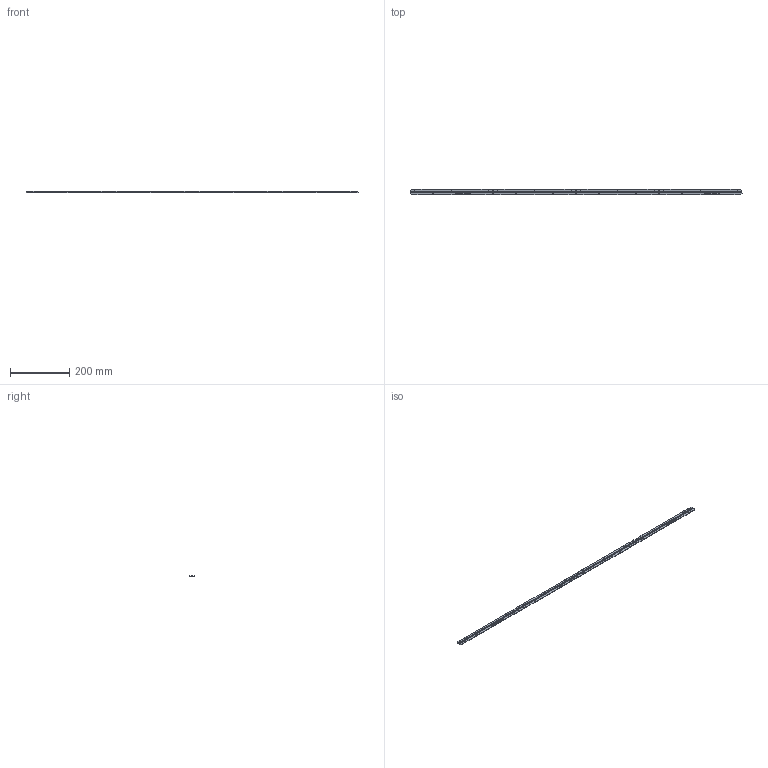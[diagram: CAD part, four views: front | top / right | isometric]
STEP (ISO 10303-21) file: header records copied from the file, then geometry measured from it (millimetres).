
FILE_DESCRIPTION(('Open CASCADE Model'),'2;1');
FILE_NAME('Open CASCADE Shape Model','2025-06-06T11:40:42',('Author'),( 'Open CASCADE'),'Open CASCADE STEP processor 6.8','Open CASCADE 6.8' ,'Unknown');
FILE_SCHEMA(('AUTOMOTIVE_DESIGN { 1 0 10303 214 1 1 1 1 }'));
Products named in the file (1): PCB
Bounding box: 1120.01 x 20.01 x 4.6 mm (x, y, z)
Volume: 37974.4 mm3; surface area: 57131 mm2
Topology: 295 solids, 295 shells, 2667 faces, 6231 edges, 4154 vertices
Faces by surface type: plane 2608, cylinder 59
Full cylindrical faces by diameter (mm): 0.8 x33
Entity records: 76186 total; most frequent: CARTESIAN_POINT 13053, ORIENTED_EDGE 12462, DIRECTION 11685, EDGE_CURVE 6231, LINE 6113, VECTOR 6113, VERTEX_POINT 4154, AXIS2_PLACEMENT_3D 2786
